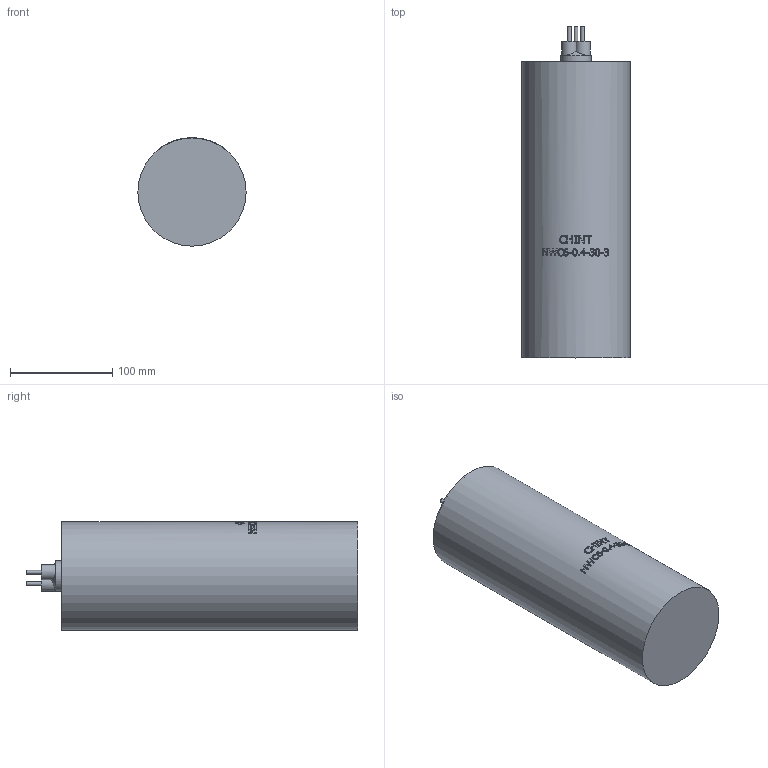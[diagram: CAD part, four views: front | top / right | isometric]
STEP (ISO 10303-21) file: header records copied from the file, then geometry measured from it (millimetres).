
FILE_DESCRIPTION(/* description */ (''),/* implementation_level */ '2;1');
FILE_NAME(/* name */ 'D:\CHINT3\\X2\041A043E043D04340435043D044104300442043E0440044B\X0\\NWC6-0.4-30-3.stp',/* time_stamp */ '2017-12-13T20:54:44+03:00',/* author */ ('RSagdiev'),/* organization */ (''),/* preprocessor_version */ 'ST-DEVELOPER v16.5',/* originating_system */ 'Autodesk Inventor 2017',/* authorisation */ '');
FILE_SCHEMA (('AUTOMOTIVE_DESIGN { 1 0 10303 214 3 1 1 }'));
Length unit declared in the file: millimetre
Products named in the file (1): NWC6-0.4-30-3
Bounding box: 106 x 325 x 106.1 mm (x, y, z)
Volume: 2563313.7 mm3; surface area: 118441.7 mm2
Topology: 5 solids, 5 shells, 282 faces, 744 edges, 495 vertices
Faces by surface type: plane 135, bspline 113, cylinder 31, cone 3
Full cylindrical faces by diameter (mm): 3.5 x3, 30 x1, 104 x1, 106 x1
Entity records: 10739 total; most frequent: CARTESIAN_POINT 4339, ORIENTED_EDGE 1474, DIRECTION 1011, EDGE_CURVE 737, VERTEX_POINT 494, LINE 339, VECTOR 339, AXIS2_PLACEMENT_3D 336
